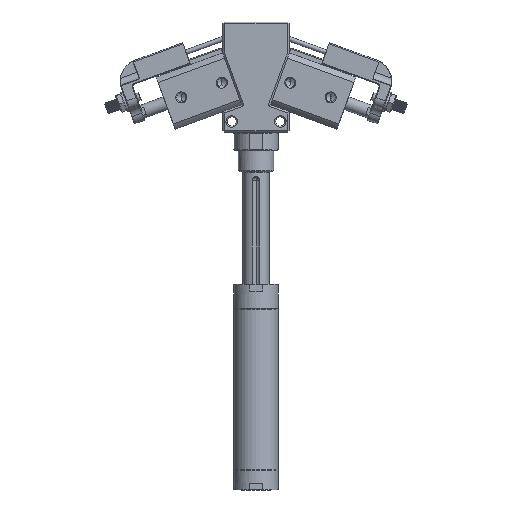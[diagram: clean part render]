
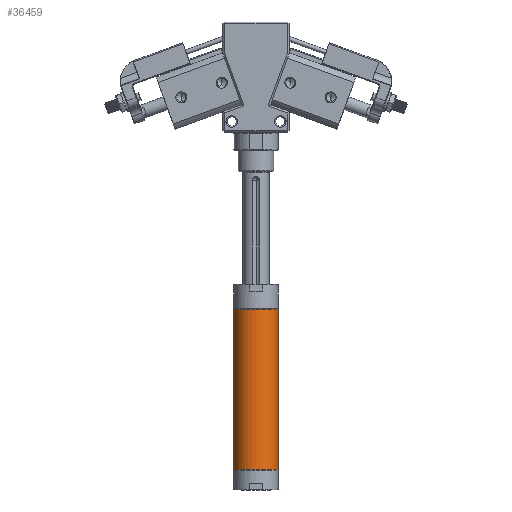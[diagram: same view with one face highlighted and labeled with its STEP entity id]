
A CAD part, front view. The second image highlights one B-rep face of the part: STEP entity #36459.
In plain terms, the highlighted cylindrical face has radius 10 mm (diameter 20 mm), a partial arc.
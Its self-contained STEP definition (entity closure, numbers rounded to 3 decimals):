
#636 = VERTEX_POINT ( 'NONE', #48370 ) ;
#1887 = CARTESIAN_POINT ( 'NONE',  ( 10., 0., -118.7 ) ) ;
#5579 = CIRCLE ( 'NONE', #33224, 10. ) ;
#6843 = CARTESIAN_POINT ( 'NONE',  ( -10., 0., -129.9 ) ) ;
#8083 = CARTESIAN_POINT ( 'NONE',  ( 0., 0., -202.5 ) ) ;
#8762 = VECTOR ( 'NONE', #62840, 1000. ) ;
#14188 = DIRECTION ( 'NONE',  ( -1., 0., 0. ) ) ;
#16149 = ORIENTED_EDGE ( 'NONE', *, *, #25949, .T. ) ;
#16784 = VERTEX_POINT ( 'NONE', #6843 ) ;
#18536 = EDGE_CURVE ( 'NONE', #68150, #16784, #5579, .T. ) ;
#20612 = EDGE_LOOP ( 'NONE', ( #64913, #72918, #63263, #16149 ) ) ;
#22759 = DIRECTION ( 'NONE',  ( -1., 0., 0. ) ) ;
#25489 = AXIS2_PLACEMENT_3D ( 'NONE', #8083, #50432, #14188 ) ;
#25949 = EDGE_CURVE ( 'NONE', #44787, #636, #33195, .T. ) ;
#27610 = DIRECTION ( 'NONE',  ( 0., 0., -1. ) ) ;
#28052 = CARTESIAN_POINT ( 'NONE',  ( -10., 0., -118.7 ) ) ;
#28866 = DIRECTION ( 'NONE',  ( 0., 0., -1. ) ) ;
#30600 = CYLINDRICAL_SURFACE ( 'NONE', #69553, 10. ) ;
#33195 = CIRCLE ( 'NONE', #25489, 10. ) ;
#33224 = AXIS2_PLACEMENT_3D ( 'NONE', #63938, #27610, #69997 ) ;
#34143 = DIRECTION ( 'NONE',  ( 0., 0., -1. ) ) ;
#36459 = ADVANCED_FACE ( 'NONE', ( #62887 ), #30600, .T. ) ;
#40657 = VECTOR ( 'NONE', #34143, 1000. ) ;
#44787 = VERTEX_POINT ( 'NONE', #77225 ) ;
#46910 = CARTESIAN_POINT ( 'NONE',  ( 0., 0., -118.7 ) ) ;
#48370 = CARTESIAN_POINT ( 'NONE',  ( 10., 0., -202.5 ) ) ;
#50432 = DIRECTION ( 'NONE',  ( 0., 0., 1. ) ) ;
#54749 = EDGE_CURVE ( 'NONE', #16784, #44787, #58707, .T. ) ;
#57105 = LINE ( 'NONE', #1887, #8762 ) ;
#58211 = CARTESIAN_POINT ( 'NONE',  ( 10., 0., -129.9 ) ) ;
#58707 = LINE ( 'NONE', #28052, #40657 ) ;
#62840 = DIRECTION ( 'NONE',  ( 0., 0., -1. ) ) ;
#62887 = FACE_OUTER_BOUND ( 'NONE', #20612, .T. ) ;
#63263 = ORIENTED_EDGE ( 'NONE', *, *, #54749, .T. ) ;
#63938 = CARTESIAN_POINT ( 'NONE',  ( 0., 0., -129.9 ) ) ;
#64913 = ORIENTED_EDGE ( 'NONE', *, *, #75976, .F. ) ;
#68150 = VERTEX_POINT ( 'NONE', #58211 ) ;
#69553 = AXIS2_PLACEMENT_3D ( 'NONE', #46910, #28866, #22759 ) ;
#69997 = DIRECTION ( 'NONE',  ( -1., 0., 0. ) ) ;
#72918 = ORIENTED_EDGE ( 'NONE', *, *, #18536, .T. ) ;
#75976 = EDGE_CURVE ( 'NONE', #68150, #636, #57105, .T. ) ;
#77225 = CARTESIAN_POINT ( 'NONE',  ( -10., 0., -202.5 ) ) ;
